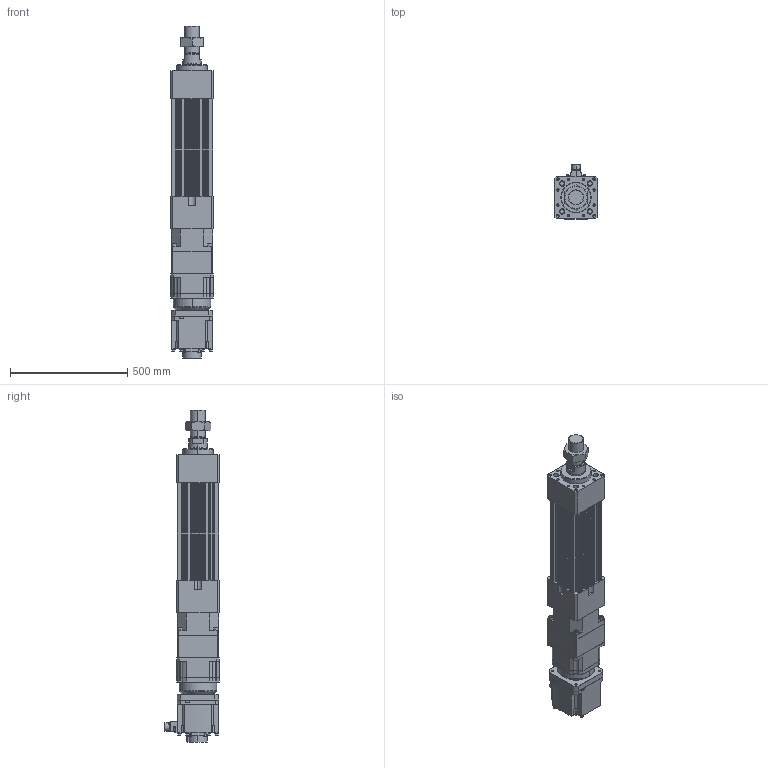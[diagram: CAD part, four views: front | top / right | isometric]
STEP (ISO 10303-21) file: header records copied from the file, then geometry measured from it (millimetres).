
FILE_DESCRIPTION (( 'STEP AP203' ), '1' );
FILE_NAME ('HES180HS-S100-W050G00-M.STEP', '2023-02-01T09:31:49', ( 'tms' ), ( '' ), 'SwSTEP 2.0', 'SolidWorks 2013', '' );
FILE_SCHEMA (( 'CONFIG_CONTROL_DESIGN' ));
Length unit declared in the file: millimetre
Products named in the file (9): AB1801; HES180 ROD M ST100; AB180-003[HG-SR702B]; HES180HS-S100-W050G00-M; M64X2.0P; P1301600001; HES180-S100-G180; P0403600401; HG-SR502
Assembly tree (8 placements, depth 3):
  HES180HS-S100-W050G00-M
    HES180-S100-G180
    HES180 ROD M ST100
    M64X2.0P
    AB180-003[HG-SR702B]
      AB1801
      P1301600001
      P0403600401
    HG-SR502
Bounding box: 180 x 230.85 x 1417 mm (x, y, z)
Volume: 21144503.7 mm3; surface area: 1890574 mm2
Topology: 4 solids, 23 shells, 1534 faces, 3945 edges, 2546 vertices
Faces by surface type: cylinder 693, plane 600, cone 174, bspline 63, torus 4
Entity records: 55246 total; most frequent: CARTESIAN_POINT 16431, DIRECTION 8177, ORIENTED_EDGE 7750, EDGE_CURVE 3899, AXIS2_PLACEMENT_3D 3072, VERTEX_POINT 2546, LINE 2033, VECTOR 2033
